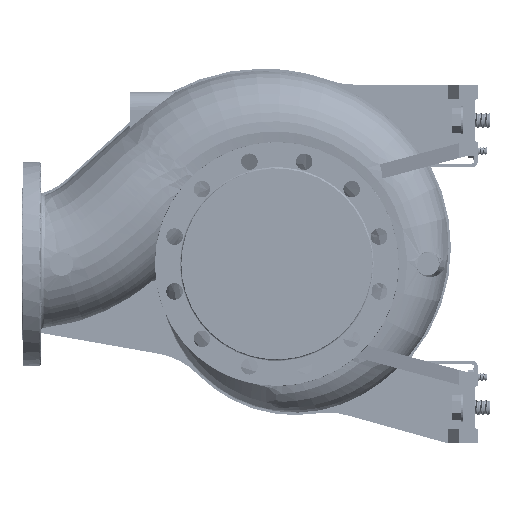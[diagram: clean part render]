
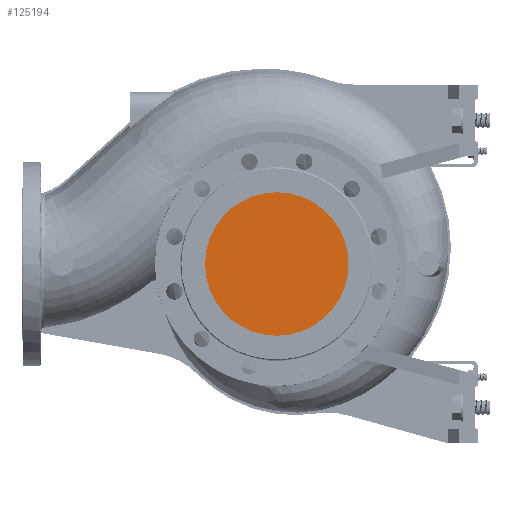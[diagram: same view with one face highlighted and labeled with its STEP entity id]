
A CAD part, left-side view. The second image highlights one B-rep face of the part: STEP entity #125194.
In plain terms, the highlighted planar face has unit normal (-1, 0, 0).
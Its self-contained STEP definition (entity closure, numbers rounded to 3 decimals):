
#258 = CARTESIAN_POINT ( 'NONE',  ( -155., 101.2, -101.2 ) ) ;
#1739 = CARTESIAN_POINT ( 'NONE',  ( -155., 0., 0. ) ) ;
#2582 = AXIS2_PLACEMENT_3D ( 'NONE', #1739, #178703, #2707 ) ;
#2707 = DIRECTION ( 'NONE',  ( 0., 0., -1. ) ) ;
#9156 = DIRECTION ( 'NONE',  ( 0., 0., -1. ) ) ;
#11787 = AXIS2_PLACEMENT_3D ( 'NONE', #258, #59624, #131526 ) ;
#24247 = CIRCLE ( 'NONE', #2582, 100. ) ;
#45030 = FACE_OUTER_BOUND ( 'NONE', #151840, .T. ) ;
#51750 = CARTESIAN_POINT ( 'NONE',  ( -155., 0., -100. ) ) ;
#59624 = DIRECTION ( 'NONE',  ( -1., 0., 0. ) ) ;
#75135 = PLANE ( 'NONE',  #11787 ) ;
#77439 = EDGE_CURVE ( 'NONE', #165512, #136489, #24247, .T. ) ;
#91895 = CARTESIAN_POINT ( 'NONE',  ( -155., 0., 100. ) ) ;
#98627 = CIRCLE ( 'NONE', #120418, 100. ) ;
#120418 = AXIS2_PLACEMENT_3D ( 'NONE', #142334, #171506, #9156 ) ;
#125194 = ADVANCED_FACE ( 'NONE', ( #45030 ), #75135, .T. ) ;
#129154 = ORIENTED_EDGE ( 'NONE', *, *, #77439, .F. ) ;
#131526 = DIRECTION ( 'NONE',  ( 0., -1., 0. ) ) ;
#136489 = VERTEX_POINT ( 'NONE', #51750 ) ;
#136797 = ORIENTED_EDGE ( 'NONE', *, *, #180516, .F. ) ;
#142334 = CARTESIAN_POINT ( 'NONE',  ( -155., 0., 0. ) ) ;
#151840 = EDGE_LOOP ( 'NONE', ( #136797, #129154 ) ) ;
#165512 = VERTEX_POINT ( 'NONE', #91895 ) ;
#171506 = DIRECTION ( 'NONE',  ( 1., 0., 0. ) ) ;
#178703 = DIRECTION ( 'NONE',  ( 1., 0., 0. ) ) ;
#180516 = EDGE_CURVE ( 'NONE', #136489, #165512, #98627, .T. ) ;
